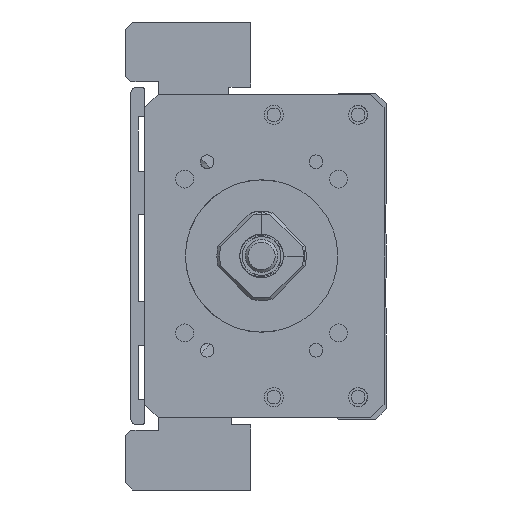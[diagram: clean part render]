
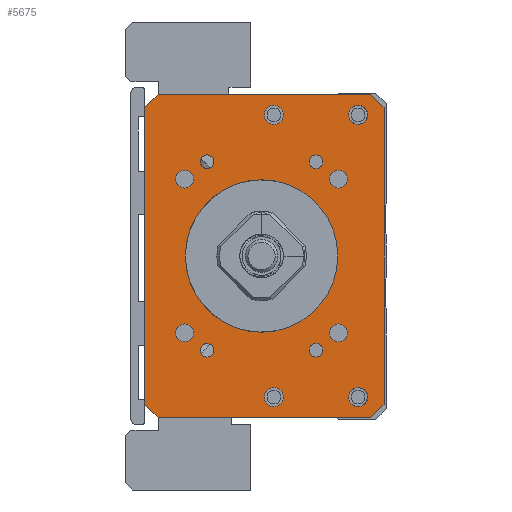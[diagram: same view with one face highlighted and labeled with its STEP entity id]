
A CAD part, left-side view. The second image highlights one B-rep face of the part: STEP entity #5675.
In plain terms, the highlighted planar face has unit normal (-1, 0, 0).
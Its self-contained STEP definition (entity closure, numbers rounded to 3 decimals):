
#4640=FACE_BOUND('',#7424,.T.);
#4641=FACE_BOUND('',#7425,.T.);
#4642=FACE_BOUND('',#7426,.T.);
#4643=FACE_BOUND('',#7427,.T.);
#4644=FACE_BOUND('',#7428,.T.);
#4645=FACE_BOUND('',#7429,.T.);
#4646=FACE_BOUND('',#7430,.T.);
#4647=FACE_BOUND('',#7431,.T.);
#4648=FACE_BOUND('',#7432,.T.);
#4649=FACE_BOUND('',#7433,.T.);
#4650=FACE_BOUND('',#7434,.T.);
#4651=FACE_BOUND('',#7435,.T.);
#4652=FACE_BOUND('',#7436,.T.);
#4653=FACE_BOUND('',#7437,.T.);
#5049=CIRCLE('',#16028,14.);
#5058=CIRCLE('',#16039,1.65);
#5059=CIRCLE('',#16040,1.65);
#5060=CIRCLE('',#16041,1.65);
#5061=CIRCLE('',#16042,1.65);
#5062=CIRCLE('',#16043,1.25);
#5063=CIRCLE('',#16044,1.75);
#5064=CIRCLE('',#16045,1.25);
#5065=CIRCLE('',#16046,1.75);
#5066=CIRCLE('',#16047,1.25);
#5067=CIRCLE('',#16048,1.75);
#5068=CIRCLE('',#16049,1.75);
#5069=CIRCLE('',#16050,1.25);
#5675=ADVANCED_FACE('',(#4640,#4641,#4642,#4643,#4644,#4645,#4646,#4647,
#4648,#4649,#4650,#4651,#4652,#4653),#6188,.F.);
#6188=PLANE('',#16051);
#7424=EDGE_LOOP('',(#10030));
#7425=EDGE_LOOP('',(#10031));
#7426=EDGE_LOOP('',(#10032));
#7427=EDGE_LOOP('',(#10033));
#7428=EDGE_LOOP('',(#10034));
#7429=EDGE_LOOP('',(#10035));
#7430=EDGE_LOOP('',(#10036));
#7431=EDGE_LOOP('',(#10037));
#7432=EDGE_LOOP('',(#10038));
#7433=EDGE_LOOP('',(#10039,#10040,#10041,#10042,#10043,#10044,#10045,#10046));
#7434=EDGE_LOOP('',(#10047));
#7435=EDGE_LOOP('',(#10048));
#7436=EDGE_LOOP('',(#10049));
#7437=EDGE_LOOP('',(#10050));
#10030=ORIENTED_EDGE('',*,*,#12987,.F.);
#10031=ORIENTED_EDGE('',*,*,#12988,.F.);
#10032=ORIENTED_EDGE('',*,*,#12989,.F.);
#10033=ORIENTED_EDGE('',*,*,#12990,.F.);
#10034=ORIENTED_EDGE('',*,*,#12991,.F.);
#10035=ORIENTED_EDGE('',*,*,#12992,.T.);
#10036=ORIENTED_EDGE('',*,*,#12993,.F.);
#10037=ORIENTED_EDGE('',*,*,#12994,.F.);
#10038=ORIENTED_EDGE('',*,*,#12995,.F.);
#10039=ORIENTED_EDGE('',*,*,#12984,.T.);
#10040=ORIENTED_EDGE('',*,*,#12996,.T.);
#10041=ORIENTED_EDGE('',*,*,#12997,.F.);
#10042=ORIENTED_EDGE('',*,*,#12998,.T.);
#10043=ORIENTED_EDGE('',*,*,#12999,.F.);
#10044=ORIENTED_EDGE('',*,*,#13000,.T.);
#10045=ORIENTED_EDGE('',*,*,#13001,.T.);
#10046=ORIENTED_EDGE('',*,*,#13002,.T.);
#10047=ORIENTED_EDGE('',*,*,#13003,.F.);
#10048=ORIENTED_EDGE('',*,*,#13004,.F.);
#10049=ORIENTED_EDGE('',*,*,#13005,.F.);
#10050=ORIENTED_EDGE('',*,*,#12964,.F.);
#11563=VERTEX_POINT('',#22507);
#11583=VERTEX_POINT('',#22567);
#11584=VERTEX_POINT('',#22569);
#11586=VERTEX_POINT('',#22575);
#11587=VERTEX_POINT('',#22577);
#11588=VERTEX_POINT('',#22579);
#11589=VERTEX_POINT('',#22581);
#11590=VERTEX_POINT('',#22583);
#11591=VERTEX_POINT('',#22585);
#11592=VERTEX_POINT('',#22587);
#11593=VERTEX_POINT('',#22589);
#11594=VERTEX_POINT('',#22591);
#11595=VERTEX_POINT('',#22593);
#11596=VERTEX_POINT('',#22595);
#11597=VERTEX_POINT('',#22597);
#11598=VERTEX_POINT('',#22599);
#11599=VERTEX_POINT('',#22601);
#11600=VERTEX_POINT('',#22603);
#11601=VERTEX_POINT('',#22606);
#11602=VERTEX_POINT('',#22608);
#11603=VERTEX_POINT('',#22610);
#12964=EDGE_CURVE('',#11563,#11563,#5049,.T.);
#12984=EDGE_CURVE('',#11584,#11583,#14146,.T.);
#12987=EDGE_CURVE('',#11586,#11586,#5058,.T.);
#12988=EDGE_CURVE('',#11587,#11587,#5059,.T.);
#12989=EDGE_CURVE('',#11588,#11588,#5060,.T.);
#12990=EDGE_CURVE('',#11589,#11589,#5061,.T.);
#12991=EDGE_CURVE('',#11590,#11590,#5062,.T.);
#12992=EDGE_CURVE('',#11591,#11591,#5063,.T.);
#12993=EDGE_CURVE('',#11592,#11592,#5064,.T.);
#12994=EDGE_CURVE('',#11593,#11593,#5065,.T.);
#12995=EDGE_CURVE('',#11594,#11594,#5066,.T.);
#12996=EDGE_CURVE('',#11583,#11595,#14148,.T.);
#12997=EDGE_CURVE('',#11596,#11595,#14149,.T.);
#12998=EDGE_CURVE('',#11596,#11597,#14150,.T.);
#12999=EDGE_CURVE('',#11598,#11597,#14151,.T.);
#13000=EDGE_CURVE('',#11598,#11599,#14152,.T.);
#13001=EDGE_CURVE('',#11599,#11600,#14153,.T.);
#13002=EDGE_CURVE('',#11600,#11584,#14154,.T.);
#13003=EDGE_CURVE('',#11601,#11601,#5067,.T.);
#13004=EDGE_CURVE('',#11602,#11602,#5068,.T.);
#13005=EDGE_CURVE('',#11603,#11603,#5069,.T.);
#14146=LINE('',#22568,#15093);
#14148=LINE('',#22592,#15095);
#14149=LINE('',#22594,#15096);
#14150=LINE('',#22596,#15097);
#14151=LINE('',#22598,#15098);
#14152=LINE('',#22600,#15099);
#14153=LINE('',#22602,#15100);
#14154=LINE('',#22604,#15101);
#15093=VECTOR('',#18752,1.);
#15095=VECTOR('',#18776,1.);
#15096=VECTOR('',#18777,1.);
#15097=VECTOR('',#18778,1.);
#15098=VECTOR('',#18779,1.);
#15099=VECTOR('',#18780,1.);
#15100=VECTOR('',#18781,1.);
#15101=VECTOR('',#18782,1.);
#16028=AXIS2_PLACEMENT_3D('',#22506,#18726,#18727);
#16039=AXIS2_PLACEMENT_3D('',#22574,#18758,#18759);
#16040=AXIS2_PLACEMENT_3D('',#22576,#18760,#18761);
#16041=AXIS2_PLACEMENT_3D('',#22578,#18762,#18763);
#16042=AXIS2_PLACEMENT_3D('',#22580,#18764,#18765);
#16043=AXIS2_PLACEMENT_3D('',#22582,#18766,#18767);
#16044=AXIS2_PLACEMENT_3D('',#22584,#18768,#18769);
#16045=AXIS2_PLACEMENT_3D('',#22586,#18770,#18771);
#16046=AXIS2_PLACEMENT_3D('',#22588,#18772,#18773);
#16047=AXIS2_PLACEMENT_3D('',#22590,#18774,#18775);
#16048=AXIS2_PLACEMENT_3D('',#22605,#18783,#18784);
#16049=AXIS2_PLACEMENT_3D('',#22607,#18785,#18786);
#16050=AXIS2_PLACEMENT_3D('',#22609,#18787,#18788);
#16051=AXIS2_PLACEMENT_3D('',#22611,#18789,#18790);
#18726=DIRECTION('',(-1.,0.,0.));
#18727=DIRECTION('',(0.,1.,0.));
#18752=DIRECTION('',(0.,0.,-1.));
#18758=DIRECTION('',(-1.,0.,0.));
#18759=DIRECTION('',(0.,0.,1.));
#18760=DIRECTION('',(-1.,0.,0.));
#18761=DIRECTION('',(0.,0.,1.));
#18762=DIRECTION('',(-1.,0.,0.));
#18763=DIRECTION('',(0.,0.,1.));
#18764=DIRECTION('',(-1.,0.,0.));
#18765=DIRECTION('',(0.,0.,1.));
#18766=DIRECTION('',(-1.,0.,0.));
#18767=DIRECTION('',(0.,1.,0.));
#18768=DIRECTION('',(1.,0.,0.));
#18769=DIRECTION('',(0.,0.,1.));
#18770=DIRECTION('',(-1.,0.,0.));
#18771=DIRECTION('',(0.,1.,0.));
#18772=DIRECTION('',(-1.,0.,0.));
#18773=DIRECTION('',(0.,0.,1.));
#18774=DIRECTION('',(-1.,0.,0.));
#18775=DIRECTION('',(0.,1.,0.));
#18776=DIRECTION('',(0.,-0.707,-0.707));
#18777=DIRECTION('',(0.,1.,0.));
#18778=DIRECTION('',(0.,-0.707,0.707));
#18779=DIRECTION('',(0.,0.,-1.));
#18780=DIRECTION('',(0.,0.707,0.707));
#18781=DIRECTION('',(0.,1.,0.));
#18782=DIRECTION('',(0.,0.707,-0.707));
#18783=DIRECTION('',(-1.,0.,0.));
#18784=DIRECTION('',(0.,0.,1.));
#18785=DIRECTION('',(-1.,0.,0.));
#18786=DIRECTION('',(0.,0.,1.));
#18787=DIRECTION('',(-1.,0.,0.));
#18788=DIRECTION('',(0.,1.,0.));
#18789=DIRECTION('',(1.,0.,0.));
#18790=DIRECTION('',(0.,1.,0.));
#22506=CARTESIAN_POINT('',(-211.,0.,-300.));
#22507=CARTESIAN_POINT('',(-211.,14.,-300.));
#22567=CARTESIAN_POINT('',(-211.,21.499,-327.25));
#22568=CARTESIAN_POINT('',(-211.,21.499,-270.25));
#22569=CARTESIAN_POINT('',(-211.,21.499,-272.75));
#22574=CARTESIAN_POINT('',(-211.,14.142,-285.858));
#22575=CARTESIAN_POINT('',(-211.,14.142,-284.208));
#22576=CARTESIAN_POINT('',(-211.,-14.142,-285.858));
#22577=CARTESIAN_POINT('',(-211.,-14.142,-284.208));
#22578=CARTESIAN_POINT('',(-211.,14.142,-314.142));
#22579=CARTESIAN_POINT('',(-211.,14.142,-312.492));
#22580=CARTESIAN_POINT('',(-211.,-14.142,-314.142));
#22581=CARTESIAN_POINT('',(-211.,-14.142,-312.492));
#22582=CARTESIAN_POINT('',(-211.,-10.,-317.321));
#22583=CARTESIAN_POINT('',(-211.,-8.75,-317.321));
#22584=CARTESIAN_POINT('',(-211.,-2.25,-325.936));
#22585=CARTESIAN_POINT('',(-211.,-2.25,-324.186));
#22586=CARTESIAN_POINT('',(-211.,10.,-282.679));
#22587=CARTESIAN_POINT('',(-211.,11.25,-282.679));
#22588=CARTESIAN_POINT('',(-211.,-2.25,-274.064));
#22589=CARTESIAN_POINT('',(-211.,-2.25,-272.314));
#22590=CARTESIAN_POINT('',(-211.,10.,-317.321));
#22591=CARTESIAN_POINT('',(-211.,11.25,-317.321));
#22592=CARTESIAN_POINT('',(-211.,18.999,-329.75));
#22593=CARTESIAN_POINT('',(-211.,18.999,-329.75));
#22594=CARTESIAN_POINT('',(-211.,-22.501,-329.75));
#22595=CARTESIAN_POINT('',(-211.,-20.001,-329.75));
#22596=CARTESIAN_POINT('',(-211.,-22.501,-327.25));
#22597=CARTESIAN_POINT('',(-211.,-22.501,-327.25));
#22598=CARTESIAN_POINT('',(-211.,-22.501,-270.25));
#22599=CARTESIAN_POINT('',(-211.,-22.501,-272.75));
#22600=CARTESIAN_POINT('',(-211.,-22.501,-272.75));
#22601=CARTESIAN_POINT('',(-211.,-20.001,-270.25));
#22602=CARTESIAN_POINT('',(-211.,-22.501,-270.25));
#22603=CARTESIAN_POINT('',(-211.,18.999,-270.25));
#22604=CARTESIAN_POINT('',(-211.,18.999,-270.25));
#22605=CARTESIAN_POINT('',(-211.,-17.75,-274.064));
#22606=CARTESIAN_POINT('',(-211.,-17.75,-272.314));
#22607=CARTESIAN_POINT('',(-211.,-17.75,-325.936));
#22608=CARTESIAN_POINT('',(-211.,-17.75,-324.186));
#22609=CARTESIAN_POINT('',(-211.,-10.,-282.679));
#22610=CARTESIAN_POINT('',(-211.,-8.75,-282.679));
#22611=CARTESIAN_POINT('',(-211.,-22.501,-270.25));
